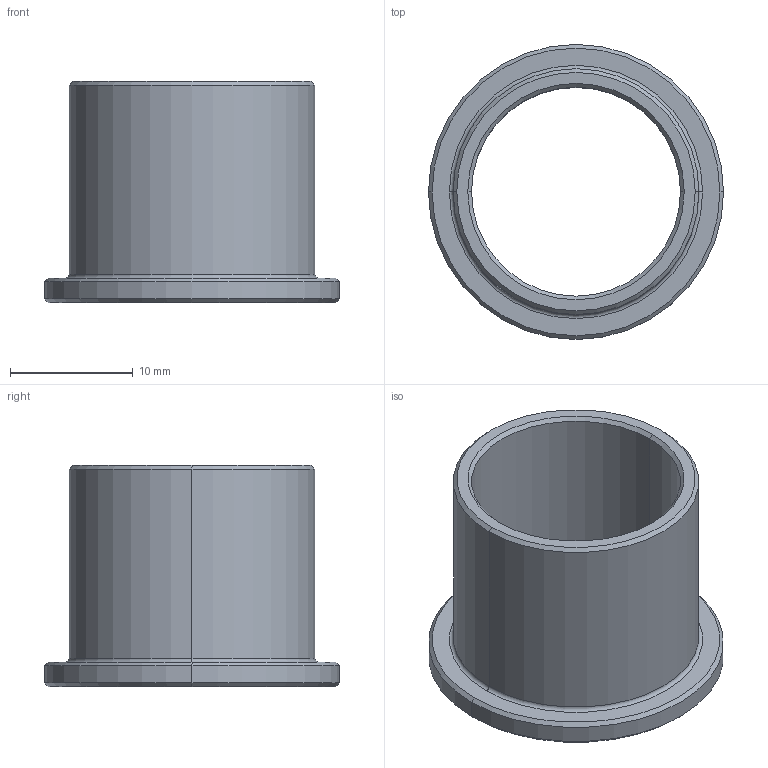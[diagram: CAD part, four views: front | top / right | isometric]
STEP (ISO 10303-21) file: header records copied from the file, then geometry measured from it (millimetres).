
FILE_DESCRIPTION (( 'STEP AP214' ), '1' );
FILE_NAME ('SBNA-20M17.STEP', '2019-11-11T06:58:04', ( '微软用户' ), ( '微软中国' ), 'SwSTEP 2.0', 'SolidWorks 2016', '' );
FILE_SCHEMA (( 'AUTOMOTIVE_DESIGN' ));
Length unit declared in the file: millimetre
Products named in the file (1): SBNA-20M17
Bounding box: 24 x 24 x 18 mm (x, y, z)
Volume: 1832.5 mm3; surface area: 2503.8 mm2
Topology: 1 solids, 1 shells, 21 faces, 42 edges, 24 vertices
Faces by surface type: cone 10, cylinder 6, plane 3, torus 2
Entity records: 584 total; most frequent: DIRECTION 112, CARTESIAN_POINT 88, ORIENTED_EDGE 84, AXIS2_PLACEMENT_3D 48, EDGE_CURVE 42, CIRCLE 26, VERTEX_POINT 24, EDGE_LOOP 24
